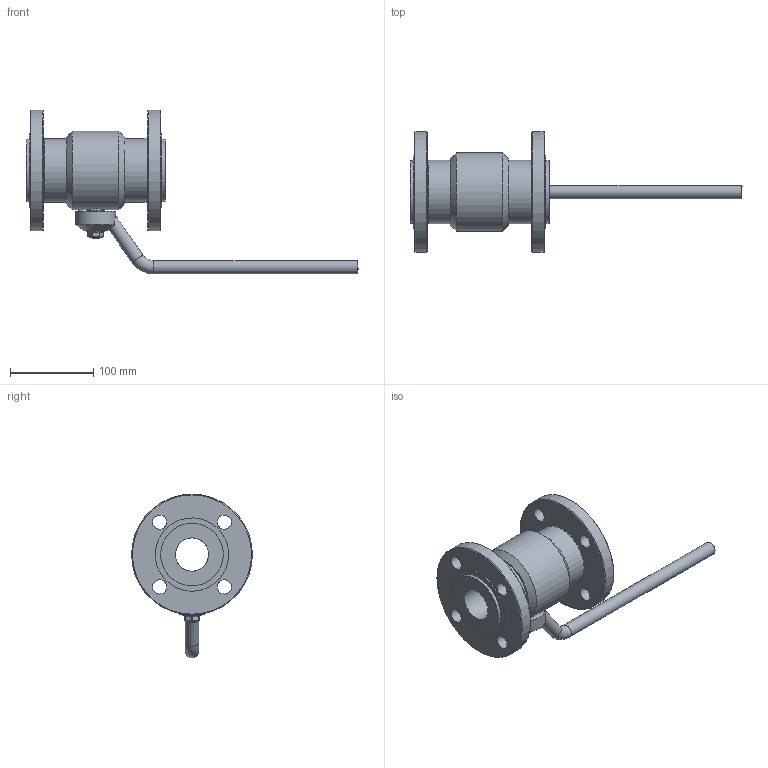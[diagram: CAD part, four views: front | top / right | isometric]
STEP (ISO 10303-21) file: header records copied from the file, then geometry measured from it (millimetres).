
FILE_DESCRIPTION(('STEP AP203'), '1');
FILE_NAME('ZARDP 040.040.22.P.stp', '2013-12-06T06:55:06', ('User'), ('Computer'), 'ASCON STEP Converter 1.3', 'Kompas 3D', '');
FILE_SCHEMA(('CONFIG_CONTROL_DESIGN','SUPPORT_RESOURCE_SCHEMA'));
Length unit declared in the file: millimetre
Products named in the file (1): 99
Bounding box: 398.51 x 145 x 196.5 mm (x, y, z)
Volume: 1071277.7 mm3; surface area: 165430.1 mm2
Topology: 1 solids, 7 shells, 170 faces, 369 edges, 232 vertices
Faces by surface type: plane 79, cylinder 60, cone 21, torus 10
Full cylindrical faces by diameter (mm): 6 x2, 10 x2, 16 x3, 16.1 x1, 17 x8, 21.8 x1, 22 x2, 24.3 x1, 24.5 x1, 40 x2, 48 x1, 68.4 x1, 75 x2, 76 x2, 88 x2, 94 x1, 145 x2
Entity records: 5815 total; most frequent: CARTESIAN_POINT 1914, DIRECTION 831, ORIENTED_EDGE 738, EDGE_CURVE 369, AXIS2_PLACEMENT_3D 332, VERTEX_POINT 232, EDGE_LOOP 213, ADVANCED_FACE 170
